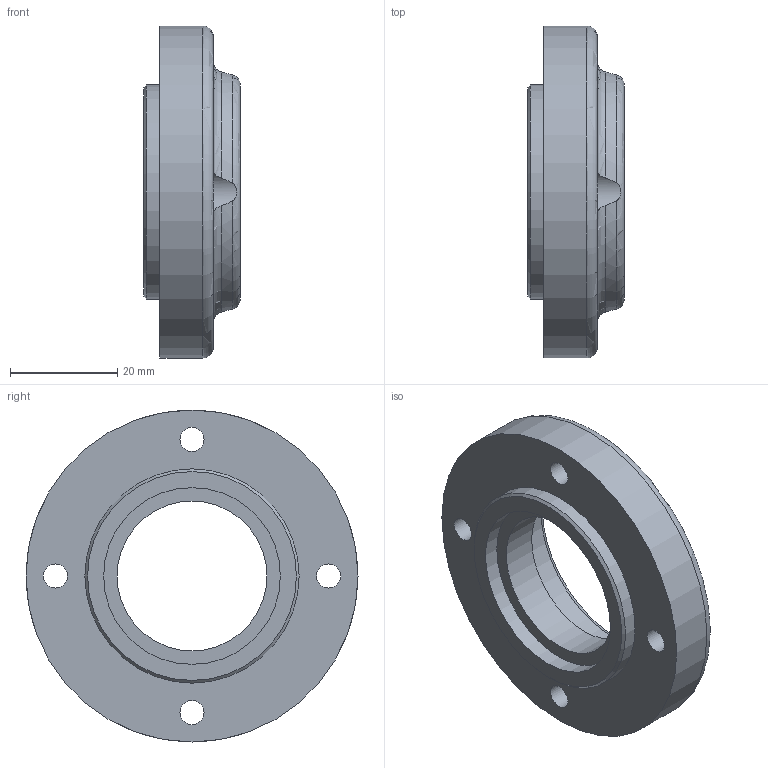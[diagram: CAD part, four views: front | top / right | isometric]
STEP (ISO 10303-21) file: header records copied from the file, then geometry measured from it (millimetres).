
FILE_DESCRIPTION(/* description */ (''),/* implementation_level */ '2;1');
FILE_NAME(/* name */ '',/* time_stamp */ '2025-03-27T10:14:58+09:00',/* author */ ('jhkim'),/* organization */ (''),/* preprocessor_version */ 'ST-DEVELOPER v20',/* originating_system */ 'Autodesk Inventor 2025',/* authorisation */ '');
FILE_SCHEMA (('AUTOMOTIVE_DESIGN { 1 0 10303 214 3 1 1 }'));
Length unit declared in the file: millimetre
Products named in the file (1): 커버
Bounding box: 18 x 62 x 62 mm (x, y, z)
Volume: 24140.1 mm3; surface area: 9834.7 mm2
Topology: 1 solids, 1 shells, 39 faces, 101 edges, 67 vertices
Faces by surface type: plane 13, cylinder 13, torus 7, cone 6
Full cylindrical faces by diameter (mm): 4.5 x4, 8 x4, 28 x1, 33 x1, 38 x1, 40 x1, 62 x1
Entity records: 1468 total; most frequent: CARTESIAN_POINT 441, DIRECTION 213, ORIENTED_EDGE 202, EDGE_CURVE 101, AXIS2_PLACEMENT_3D 99, VERTEX_POINT 67, CIRCLE 59, EDGE_LOOP 52
